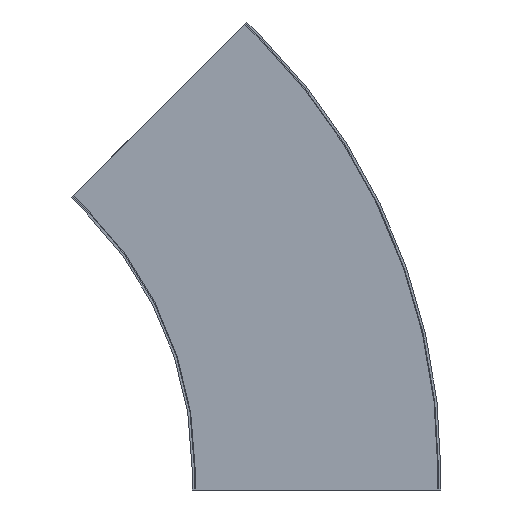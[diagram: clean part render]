
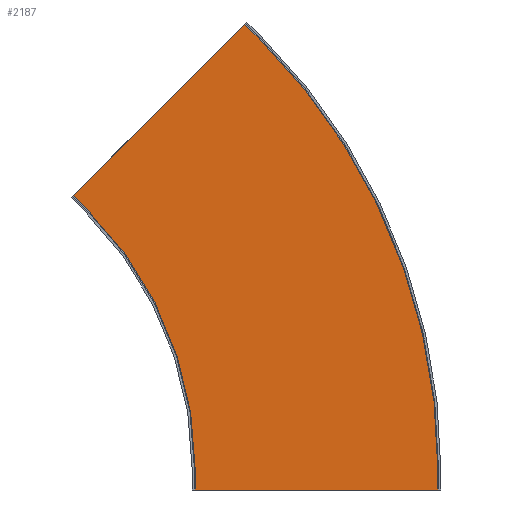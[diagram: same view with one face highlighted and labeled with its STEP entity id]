
A CAD part, front view. The second image highlights one B-rep face of the part: STEP entity #2187.
In plain terms, the highlighted planar face has unit normal (0, -1, 0).
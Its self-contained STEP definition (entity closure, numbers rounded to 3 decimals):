
#7 = DIRECTION ( 'NONE',  ( -1., 0., 0. ) ) ;
#48 = CARTESIAN_POINT ( 'NONE',  ( 680.59, -68.25, 680.59 ) ) ;
#79 = CARTESIAN_POINT ( 'NONE',  ( 962.5, -68.25, -52.5 ) ) ;
#137 = LINE ( 'NONE', #2146, #2282 ) ;
#244 = EDGE_LOOP ( 'NONE', ( #2025, #913, #1103, #385, #999, #733, #1505, #1545 ) ) ;
#266 = CARTESIAN_POINT ( 'NONE',  ( 680.59, -68.25, 680.59 ) ) ;
#284 = DIRECTION ( 'NONE',  ( 0.707, 0., -0.707 ) ) ;
#365 = LINE ( 'NONE', #2168, #2358 ) ;
#385 = ORIENTED_EDGE ( 'NONE', *, *, #418, .T. ) ;
#418 = EDGE_CURVE ( 'NONE', #1300, #829, #365, .T. ) ;
#452 = CARTESIAN_POINT ( 'NONE',  ( 1597.5, -68.25, -52.5 ) ) ;
#486 = AXIS2_PLACEMENT_3D ( 'NONE', #2106, #1338, #7 ) ;
#512 = EDGE_CURVE ( 'NONE', #1598, #976, #1377, .T. ) ;
#545 = EDGE_CURVE ( 'NONE', #766, #2104, #1288, .T. ) ;
#564 = CIRCLE ( 'NONE', #486, 1597.5 ) ;
#571 = CARTESIAN_POINT ( 'NONE',  ( 0., -68.25, 0. ) ) ;
#580 = VECTOR ( 'NONE', #284, 1000. ) ;
#613 = CARTESIAN_POINT ( 'NONE',  ( -37.123, -68.25, 37.123 ) ) ;
#614 = CARTESIAN_POINT ( 'NONE',  ( 1092.48, -68.25, 1166.726 ) ) ;
#716 = EDGE_CURVE ( 'NONE', #2104, #976, #776, .T. ) ;
#721 = DIRECTION ( 'NONE',  ( 0., 1., 0. ) ) ;
#733 = ORIENTED_EDGE ( 'NONE', *, *, #1334, .F. ) ;
#749 = DIRECTION ( 'NONE',  ( -1., 0., 0. ) ) ;
#766 = VERTEX_POINT ( 'NONE', #2432 ) ;
#776 = CIRCLE ( 'NONE', #1117, 962.5 ) ;
#805 = DIRECTION ( 'NONE',  ( -1., 0., 0. ) ) ;
#810 = DIRECTION ( 'NONE',  ( 0., 1., 0. ) ) ;
#824 = LINE ( 'NONE', #613, #1269 ) ;
#829 = VERTEX_POINT ( 'NONE', #2230 ) ;
#913 = ORIENTED_EDGE ( 'NONE', *, *, #512, .F. ) ;
#918 = VERTEX_POINT ( 'NONE', #930 ) ;
#930 = CARTESIAN_POINT ( 'NONE',  ( 1129.603, -68.25, 1129.603 ) ) ;
#976 = VERTEX_POINT ( 'NONE', #1685 ) ;
#999 = ORIENTED_EDGE ( 'NONE', *, *, #1919, .F. ) ;
#1002 = DIRECTION ( 'NONE',  ( -1., 0., 0. ) ) ;
#1009 = DIRECTION ( 'NONE',  ( 0.707, 0., 0.707 ) ) ;
#1040 = CARTESIAN_POINT ( 'NONE',  ( 962.5, -68.25, -52.5 ) ) ;
#1103 = ORIENTED_EDGE ( 'NONE', *, *, #1973, .F. ) ;
#1117 = AXIS2_PLACEMENT_3D ( 'NONE', #571, #721, #749 ) ;
#1269 = VECTOR ( 'NONE', #1009, 1000. ) ;
#1288 = LINE ( 'NONE', #2186, #580 ) ;
#1300 = VERTEX_POINT ( 'NONE', #452 ) ;
#1320 = VECTOR ( 'NONE', #1585, 1000. ) ;
#1334 = EDGE_CURVE ( 'NONE', #1390, #918, #1976, .T. ) ;
#1338 = DIRECTION ( 'NONE',  ( 0., 1., 0. ) ) ;
#1377 = LINE ( 'NONE', #79, #2182 ) ;
#1390 = VERTEX_POINT ( 'NONE', #2198 ) ;
#1505 = ORIENTED_EDGE ( 'NONE', *, *, #1946, .F. ) ;
#1545 = ORIENTED_EDGE ( 'NONE', *, *, #545, .T. ) ;
#1585 = DIRECTION ( 'NONE',  ( 0.707, 0., -0.707 ) ) ;
#1598 = VERTEX_POINT ( 'NONE', #1040 ) ;
#1603 = DIRECTION ( 'NONE',  ( 0., 0., 1. ) ) ;
#1685 = CARTESIAN_POINT ( 'NONE',  ( 962.5, -68.25, 0. ) ) ;
#1887 = AXIS2_PLACEMENT_3D ( 'NONE', #48, #810, #1002 ) ;
#1919 = EDGE_CURVE ( 'NONE', #918, #829, #564, .T. ) ;
#1946 = EDGE_CURVE ( 'NONE', #766, #1390, #824, .T. ) ;
#1973 = EDGE_CURVE ( 'NONE', #1300, #1598, #137, .T. ) ;
#1976 = LINE ( 'NONE', #614, #1320 ) ;
#2025 = ORIENTED_EDGE ( 'NONE', *, *, #716, .T. ) ;
#2104 = VERTEX_POINT ( 'NONE', #266 ) ;
#2106 = CARTESIAN_POINT ( 'NONE',  ( 0., -68.25, 0. ) ) ;
#2146 = CARTESIAN_POINT ( 'NONE',  ( 0., -68.25, -52.5 ) ) ;
#2168 = CARTESIAN_POINT ( 'NONE',  ( 1597.5, -68.25, -52.5 ) ) ;
#2182 = VECTOR ( 'NONE', #2196, 1000. ) ;
#2186 = CARTESIAN_POINT ( 'NONE',  ( 643.467, -68.25, 717.713 ) ) ;
#2187 = ADVANCED_FACE ( 'NONE', ( #2310 ), #2323, .F. ) ;
#2196 = DIRECTION ( 'NONE',  ( 0., 0., 1. ) ) ;
#2198 = CARTESIAN_POINT ( 'NONE',  ( 1092.48, -68.25, 1166.726 ) ) ;
#2230 = CARTESIAN_POINT ( 'NONE',  ( 1597.5, -68.25, 0. ) ) ;
#2282 = VECTOR ( 'NONE', #805, 1000. ) ;
#2310 = FACE_OUTER_BOUND ( 'NONE', #244, .T. ) ;
#2323 = PLANE ( 'NONE',  #1887 ) ;
#2358 = VECTOR ( 'NONE', #1603, 1000. ) ;
#2432 = CARTESIAN_POINT ( 'NONE',  ( 643.467, -68.25, 717.713 ) ) ;
